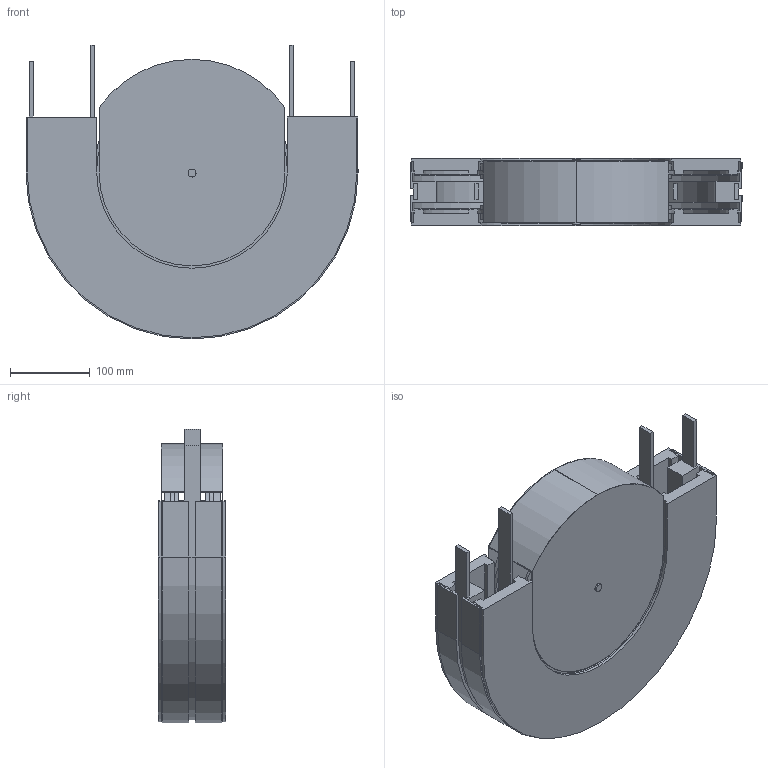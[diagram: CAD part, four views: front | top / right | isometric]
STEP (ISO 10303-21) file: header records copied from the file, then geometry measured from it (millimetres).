
FILE_DESCRIPTION (( 'STEP AP214' ), '1' );
FILE_NAME ('927771 CS090SL Horizontale schijfbochtsectie R162,5 180°.STEP', '2014-03-20T15:39:27', ( 'Beheerder' ), ( '' ), 'SwSTEP 2.0', 'SolidWorks 2012', '' );
FILE_SCHEMA (( 'AUTOMOTIVE_DESIGN' ));
Length unit declared in the file: millimetre
Products named in the file (1): 927771 CS090SL Horizontale schijfbochtsectie R162,5 180°
Bounding box: 415 x 84 x 367.5 mm (x, y, z)
Volume: 4292747 mm3; surface area: 945992.2 mm2
Topology: 3 solids, 3 shells, 208 faces, 558 edges, 364 vertices
Faces by surface type: plane 122, cylinder 80, cone 6
Entity records: 6554 total; most frequent: DIRECTION 1140, CARTESIAN_POINT 1131, ORIENTED_EDGE 1116, EDGE_CURVE 558, LINE 394, VECTOR 394, AXIS2_PLACEMENT_3D 373, VERTEX_POINT 364
